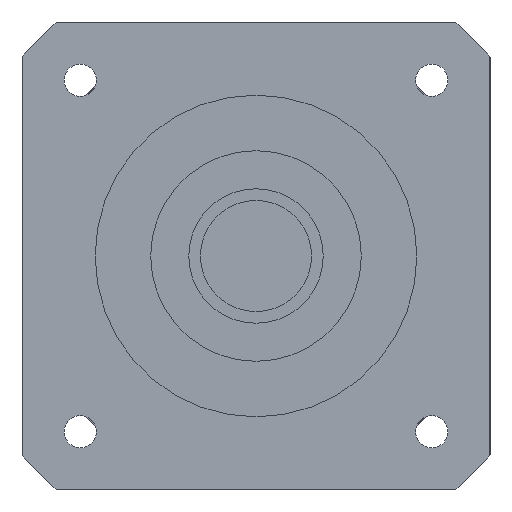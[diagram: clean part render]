
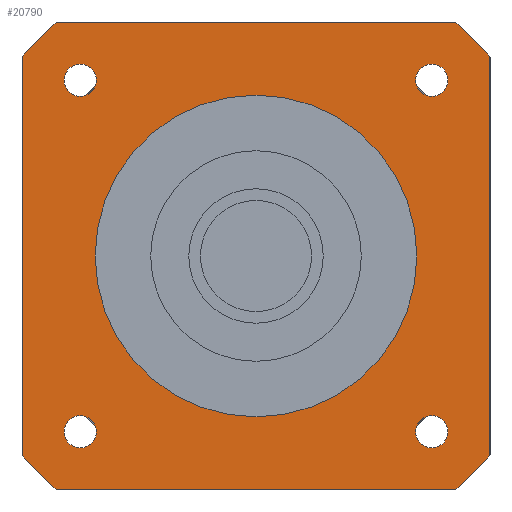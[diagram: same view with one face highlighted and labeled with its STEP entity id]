
A CAD part, left-side view. The second image highlights one B-rep face of the part: STEP entity #20790.
In plain terms, the highlighted planar face has unit normal (-1, 0, 0) as drawn and (0, 0, -1) by its records, which use the part's own axes.
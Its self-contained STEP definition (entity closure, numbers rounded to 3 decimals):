
#19160=CARTESIAN_POINT('',(-30.052,-27.302,-42.));
#19170=VERTEX_POINT('',#19160);
#19250=CARTESIAN_POINT('',(-30.052,-32.802,-42.));
#19260=VERTEX_POINT('',#19250);
#19290=CARTESIAN_POINT('',(-30.052,-30.052,-42.));
#19300=DIRECTION('',(0.,0.,1.));
#19310=DIRECTION('',(0.,1.,0.));
#19320=AXIS2_PLACEMENT_3D('',#19290,#19300,#19310);
#19330=CIRCLE('',#19320,2.75);
#19340=EDGE_CURVE('',#19260,#19170,#19330,.T.);
#19390=CARTESIAN_POINT('',(40.,-40.,-42.));
#19400=DIRECTION('',(0.,0.,1.));
#19410=DIRECTION('',(0.,1.,0.));
#19420=AXIS2_PLACEMENT_3D('',#19390,#19400,#19410);
#19430=PLANE('',#19420);
#19440=EDGE_CURVE('',#19170,#19260,#19330,.T.);
#19450=ORIENTED_EDGE('',*,*,#19440,.T.);
#19460=ORIENTED_EDGE('',*,*,#19340,.T.);
#19470=EDGE_LOOP('',(#19460,#19450));
#19480=FACE_BOUND('',#19470,.T.);
#19490=CARTESIAN_POINT('',(30.052,30.052,-42.));
#19500=DIRECTION('',(0.,0.,1.));
#19510=DIRECTION('',(0.,1.,0.));
#19520=AXIS2_PLACEMENT_3D('',#19490,#19500,#19510);
#19530=CIRCLE('',#19520,2.75);
#19540=CARTESIAN_POINT('',(30.052,32.802,-42.));
#19550=VERTEX_POINT('',#19540);
#19560=CARTESIAN_POINT('',(30.052,27.302,-42.));
#19570=VERTEX_POINT('',#19560);
#19580=EDGE_CURVE('',#19550,#19570,#19530,.T.);
#19590=ORIENTED_EDGE('',*,*,#19580,.T.);
#19600=EDGE_CURVE('',#19570,#19550,#19530,.T.);
#19610=ORIENTED_EDGE('',*,*,#19600,.T.);
#19620=EDGE_LOOP('',(#19610,#19590));
#19630=FACE_BOUND('',#19620,.T.);
#19640=CARTESIAN_POINT('',(-30.052,30.052,-42.));
#19650=DIRECTION('',(0.,0.,1.));
#19660=DIRECTION('',(0.,1.,0.));
#19670=AXIS2_PLACEMENT_3D('',#19640,#19650,#19660);
#19680=CIRCLE('',#19670,2.75);
#19690=CARTESIAN_POINT('',(-30.052,32.802,-42.));
#19700=VERTEX_POINT('',#19690);
#19710=CARTESIAN_POINT('',(-30.052,27.302,-42.));
#19720=VERTEX_POINT('',#19710);
#19730=EDGE_CURVE('',#19700,#19720,#19680,.T.);
#19740=ORIENTED_EDGE('',*,*,#19730,.T.);
#19750=EDGE_CURVE('',#19720,#19700,#19680,.T.);
#19760=ORIENTED_EDGE('',*,*,#19750,.T.);
#19770=EDGE_LOOP('',(#19760,#19740));
#19780=FACE_BOUND('',#19770,.T.);
#19790=CARTESIAN_POINT('',(0.,0.,
-42.));
#19800=DIRECTION('',(0.,0.,1.));
#19810=DIRECTION('',(0.,-1.,0.));
#19820=AXIS2_PLACEMENT_3D('',#19790,#19800,#19810);
#19830=CIRCLE('',#19820,27.5);
#19840=CARTESIAN_POINT('',(0.,-27.5,-42.));
#19850=VERTEX_POINT('',#19840);
#19860=CARTESIAN_POINT('',(0.,27.5,-42.));
#19870=VERTEX_POINT('',#19860);
#19880=EDGE_CURVE('',#19850,#19870,#19830,.T.);
#19890=ORIENTED_EDGE('',*,*,#19880,.T.);
#19900=EDGE_CURVE('',#19870,#19850,#19830,.T.);
#19910=ORIENTED_EDGE('',*,*,#19900,.T.);
#19920=EDGE_LOOP('',(#19910,#19890));
#19930=FACE_BOUND('',#19920,.T.);
#19940=CARTESIAN_POINT('',(30.052,-30.052,-42.));
#19950=DIRECTION('',(0.,0.,1.));
#19960=DIRECTION('',(0.,1.,0.));
#19970=AXIS2_PLACEMENT_3D('',#19940,#19950,#19960);
#19980=CIRCLE('',#19970,2.75);
#19990=CARTESIAN_POINT('',(30.052,-27.302,-42.));
#20000=VERTEX_POINT('',#19990);
#20010=CARTESIAN_POINT('',(30.052,-32.802,-42.));
#20020=VERTEX_POINT('',#20010);
#20030=EDGE_CURVE('',#20000,#20020,#19980,.T.);
#20040=ORIENTED_EDGE('',*,*,#20030,.T.);
#20050=EDGE_CURVE('',#20020,#20000,#19980,.T.);
#20060=ORIENTED_EDGE('',*,*,#20050,.T.);
#20070=EDGE_LOOP('',(#20060,#20040));
#20080=FACE_BOUND('',#20070,.T.);
#20090=CARTESIAN_POINT('',(0.,0.,
-42.));
#20100=DIRECTION('',(0.,0.,1.));
#20110=DIRECTION('',(0.,1.,0.));
#20120=AXIS2_PLACEMENT_3D('',#20090,#20100,#20110);
#20130=CIRCLE('',#20120,52.5);
#20140=CARTESIAN_POINT('',(-34.004,40.,-42.));
#20150=VERTEX_POINT('',#20140);
#20160=CARTESIAN_POINT('',(-40.,34.004,-42.));
#20170=VERTEX_POINT('',#20160);
#20180=EDGE_CURVE('',#20150,#20170,#20130,.T.);
#20190=ORIENTED_EDGE('',*,*,#20180,.F.);
#20200=CARTESIAN_POINT('',(-40.,40.,-42.));
#20210=DIRECTION('',(0.,-1.,0.));
#20220=VECTOR('',#20210,1000.);
#20230=LINE('',#20200,#20220);
#20240=CARTESIAN_POINT('',(-40.,-34.004,-42.));
#20250=VERTEX_POINT('',#20240);
#20260=EDGE_CURVE('',#20170,#20250,#20230,.T.);
#20270=ORIENTED_EDGE('',*,*,#20260,.F.);
#20280=CARTESIAN_POINT('',(0.,0.,
-42.));
#20290=DIRECTION('',(0.,0.,1.));
#20300=DIRECTION('',(0.,1.,0.));
#20310=AXIS2_PLACEMENT_3D('',#20280,#20290,#20300);
#20320=CIRCLE('',#20310,52.5);
#20330=CARTESIAN_POINT('',(-34.004,-40.,-42.));
#20340=VERTEX_POINT('',#20330);
#20350=EDGE_CURVE('',#20250,#20340,#20320,.T.);
#20360=ORIENTED_EDGE('',*,*,#20350,.F.);
#20370=CARTESIAN_POINT('',(-40.,-40.,-42.));
#20380=DIRECTION('',(1.,0.,0.));
#20390=VECTOR('',#20380,1000.);
#20400=LINE('',#20370,#20390);
#20410=CARTESIAN_POINT('',(34.004,-40.,-42.));
#20420=VERTEX_POINT('',#20410);
#20430=EDGE_CURVE('',#20340,#20420,#20400,.T.);
#20440=ORIENTED_EDGE('',*,*,#20430,.F.);
#20450=CARTESIAN_POINT('',(0.,0.,
-42.));
#20460=DIRECTION('',(0.,0.,1.));
#20470=DIRECTION('',(0.,1.,0.));
#20480=AXIS2_PLACEMENT_3D('',#20450,#20460,#20470);
#20490=CIRCLE('',#20480,52.5);
#20500=CARTESIAN_POINT('',(40.,-34.004,-42.));
#20510=VERTEX_POINT('',#20500);
#20520=EDGE_CURVE('',#20420,#20510,#20490,.T.);
#20530=ORIENTED_EDGE('',*,*,#20520,.F.);
#20540=CARTESIAN_POINT('',(40.,-40.,-42.));
#20550=DIRECTION('',(0.,1.,0.));
#20560=VECTOR('',#20550,1000.);
#20570=LINE('',#20540,#20560);
#20580=CARTESIAN_POINT('',(40.,34.004,-42.));
#20590=VERTEX_POINT('',#20580);
#20600=EDGE_CURVE('',#20510,#20590,#20570,.T.);
#20610=ORIENTED_EDGE('',*,*,#20600,.F.);
#20620=CARTESIAN_POINT('',(0.,0.,
-42.));
#20630=DIRECTION('',(0.,0.,1.));
#20640=DIRECTION('',(0.,1.,0.));
#20650=AXIS2_PLACEMENT_3D('',#20620,#20630,#20640);
#20660=CIRCLE('',#20650,52.5);
#20670=CARTESIAN_POINT('',(34.004,40.,-42.));
#20680=VERTEX_POINT('',#20670);
#20690=EDGE_CURVE('',#20590,#20680,#20660,.T.);
#20700=ORIENTED_EDGE('',*,*,#20690,.F.);
#20710=CARTESIAN_POINT('',(40.,40.,-42.));
#20720=DIRECTION('',(-1.,0.,0.));
#20730=VECTOR('',#20720,1000.);
#20740=LINE('',#20710,#20730);
#20750=EDGE_CURVE('',#20680,#20150,#20740,.T.);
#20760=ORIENTED_EDGE('',*,*,#20750,.F.);
#20770=EDGE_LOOP('',(#20760,#20700,#20610,#20530,#20440,#20360,#20270,
#20190));
#20780=FACE_OUTER_BOUND('',#20770,.T.);
#20790=ADVANCED_FACE('',(#19480,#19630,#19780,#19930,#20080,#20780),
#19430,.F.);
